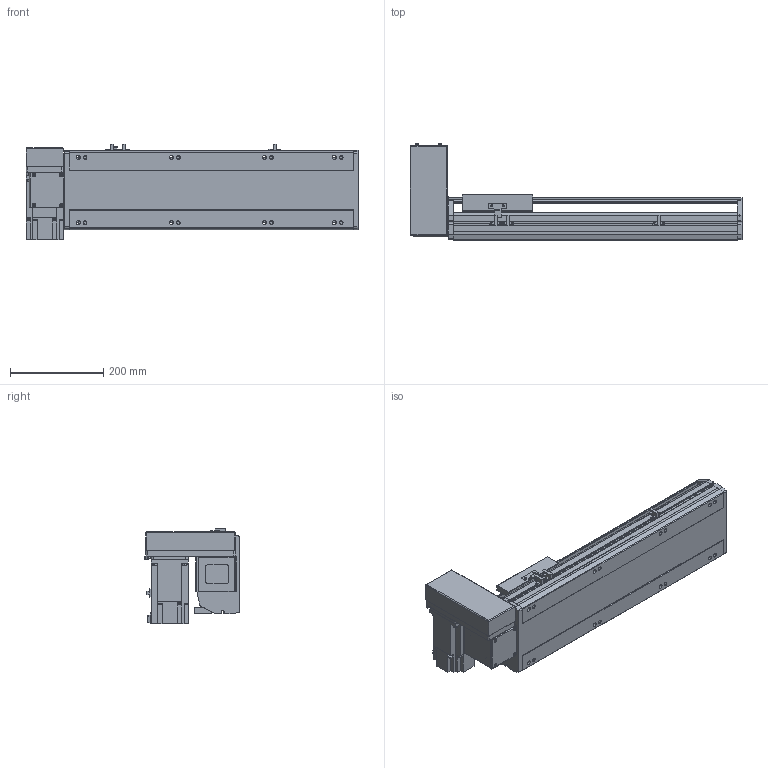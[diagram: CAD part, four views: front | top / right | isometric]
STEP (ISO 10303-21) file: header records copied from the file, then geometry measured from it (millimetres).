
FILE_DESCRIPTION( ( 'STEP AP214' ), '1' );
FILE_NAME( 'x:/temp/worker_5/temp/exporttempdir_3988_108_0ue3j/format_0/PBS170-P40-S350-RU-T75-C1-N(0).stp', '2022-06-08T05:55:45', ( 'License CC BY-ND 4.0' ), ( 'CADENAS' ), ' ', 'PARTsolutions', ' ' );
FILE_SCHEMA( ( 'AUTOMOTIVE_DESIGN { 1 0 10303 214 1 1 1 1 }' ) );
Length unit declared in the file: millimetre
Products named in the file (7): PBS170-P40-S350-RU-T75-C1-N(0); _PBS170-S350()_body; _PBS170T-RU_motors; _T75-p1; _PBS170_sliser; _PBS170_plant; _PBS170_sensor
Assembly tree (8 placements, depth 2):
  PBS170-P40-S350-RU-T75-C1-N(0)
    _PBS170-S350()_body
    _PBS170T-RU_motors
    _T75-p1
    _PBS170_sliser
    _PBS170_plant
    _PBS170_sensor  x3
Bounding box: 713 x 206 x 205.3 mm (x, y, z)
Volume: 6359559.9 mm3; surface area: 881161.6 mm2
Topology: 8 solids, 8 shells, 1018 faces, 2715 edges, 1770 vertices
Faces by surface type: plane 663, cylinder 307, cone 38, sphere 8, torus 2
Full cylindrical faces by diameter (mm): 3.242 x4, 4 x2, 4.4 x4, 4.5 x6, 4.917 x4, 6 x9, 6.647 x16, 7 x2, 7.5 x4, 8 x8, 8.5 x8, 10 x4, 10.5 x8, 11 x2, 30 x2, 40 x1, 70 x1
Entity records: 37172 total; most frequent: CARTESIAN_POINT 5549, DIRECTION 5020, ORIENTED_EDGE 4788, EDGE_CURVE 2394, AXIS2_PLACEMENT_3D 1717, VERTEX_POINT 1634, LINE 1586, VECTOR 1586
